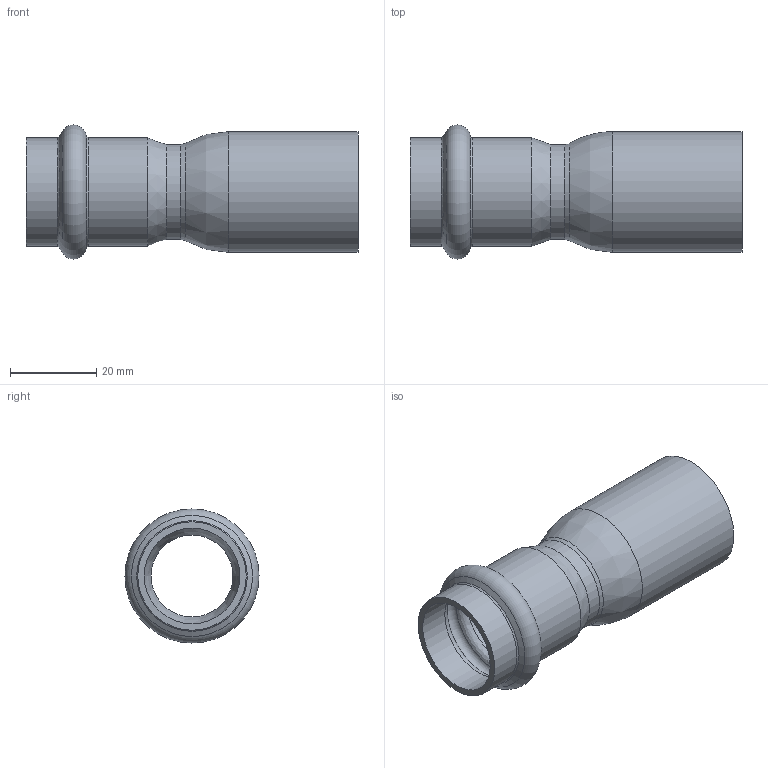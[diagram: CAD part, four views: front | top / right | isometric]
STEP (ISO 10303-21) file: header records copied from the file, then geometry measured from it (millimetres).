
FILE_DESCRIPTION((''),'2;1');
FILE_NAME('G:\Technics\CAD\Bauteile\028\692432822(1).stp','2008-02-27T09:07:01',('herberg'),(''),'Autodesk Inventor 2008','Autodesk Inventor 2008','');
FILE_SCHEMA(('AUTOMOTIVE_DESIGN { 1 0 10303 214 1 1 1 1 }'));
Length unit declared in the file: millimetre
Products named in the file (1): 692432822(1)
Bounding box: 77 x 31.1 x 31.1 mm (x, y, z)
Volume: 9491.3 mm3; surface area: 12890.8 mm2
Topology: 1 solids, 1 shells, 24 faces, 50 edges, 28 vertices
Faces by surface type: cylinder 8, bspline 8, cone 4, torus 2, plane 2
Full cylindrical faces by diameter (mm): 19 x1, 22 x1, 22.15 x2, 25 x1, 25.15 x2, 28 x1
Entity records: 798 total; most frequent: CARTESIAN_POINT 389, DIRECTION 82, ORIENTED_EDGE 48, EDGE_LOOP 48, AXIS2_PLACEMENT_3D 41, VERTEX_POINT 24, CIRCLE 24, EDGE_CURVE 24
